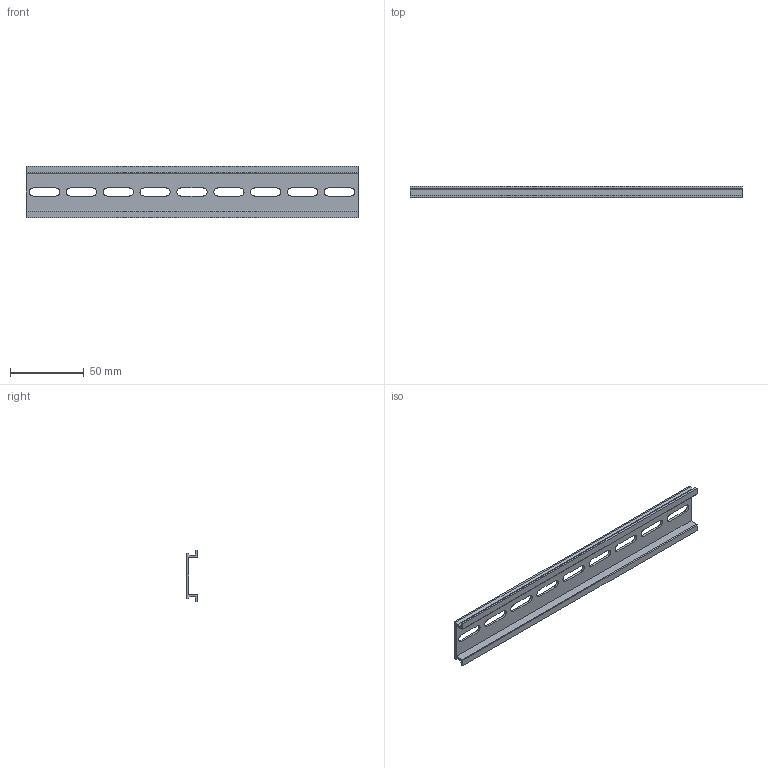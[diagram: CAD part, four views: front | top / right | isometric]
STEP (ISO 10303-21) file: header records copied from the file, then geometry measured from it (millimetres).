
FILE_DESCRIPTION( (''), '2;1');
FILE_NAME ('CVICAD02.15516.DIN-RAIL225_7354.stp','2020-09-01T14:18:11',(''),(''),'spGate 12.6.6','','');
FILE_SCHEMA (('AUTOMOTIVE_DESIGN'));
Length unit declared in the file: millimetre
Bounding box: 225 x 7.5 x 35 mm (x, y, z)
Volume: 15885 mm3; surface area: 21311.1 mm2
Topology: 1 solids, 1 shells, 56 faces, 162 edges, 108 vertices
Faces by surface type: plane 36, cylinder 20
Entity records: 3157 total; most frequent: CARTESIAN_POINT 326, ORIENTED_EDGE 324, DIRECTION 314, COLOUR_RGB 219, PRESENTATION_STYLE_ASSIGNMENT 219, STYLED_ITEM 219, EDGE_CURVE 162, DRAUGHTING_PRE_DEFINED_CURVE_FONT 162
